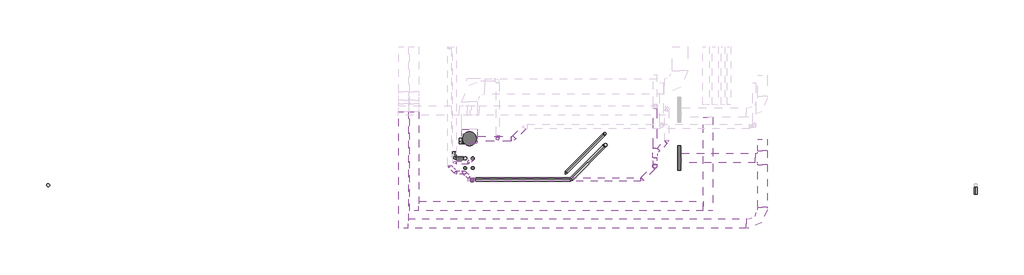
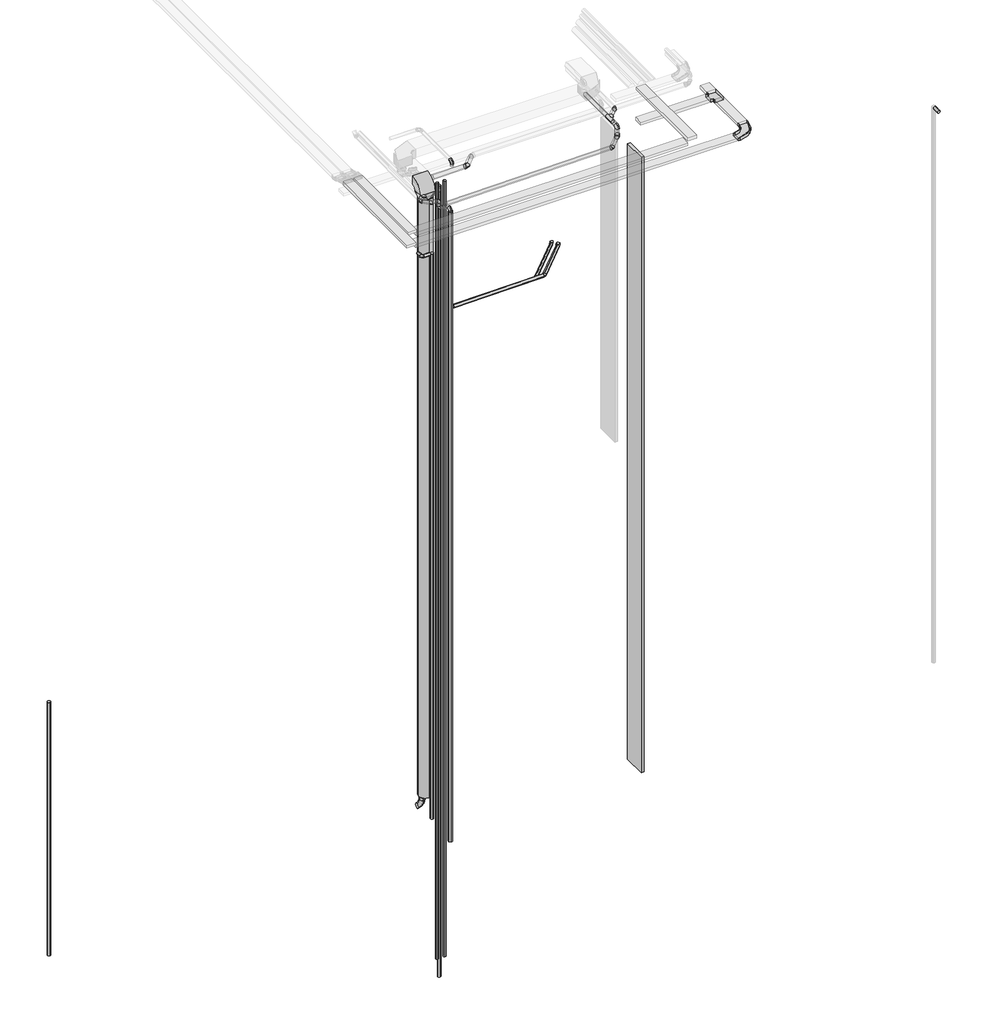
# One storey, part 1 of 5: 24 pipe segments, 18 pipe fittings, 9 cable carrier segments, 5 duct fittings, 5 duct segments, 2 cable carrier fittings.
"""IFC4 building model written with IfcOpenShell, lengths in millimetres."""

from ifc_helpers import new_model, si_unit, point, frame, frame_2d, origin, place, context, project, spatial, polyline, circle_curve, trimmed, segment, composite_curve, outline, extrude, transform, mapped, element, save
from components import el_radio_300_mm_312ed4b1, m_codo_horizontal_de_canal_el_5b0e7b07, duct_fitting_4f1c42b2, m_codo_rectangular_radio_ext_1_w_5d3c8198, m_codo_redondo_ext_1_d_74319309, m_codo_redondo_ext_1_d_96ea52f9, m_codo_redondo_ext_1_d_5003ae0d, pipe_fitting_8e92d537, pipe_fitting_b994c117, pipe_fitting_0b7fd5a4, pipe_fitting_aab77541, pipe_fitting_fa926298, pipe_fitting_9bc1c262, pipe_fitting_688cd524, pipe_fitting_d4e63a53, pipe_fitting_ab36f62d, pipe_fitting_87aeffad, pipe_fitting_4a6b8cfe

model = new_model("IFC4")

# Units and contexts
model_context = context("Model", 3, world=origin())
ifc_project = project(units=[si_unit("LENGTHUNIT", "METRE", prefix="MILLI")], contexts=[model_context])

# Site, building, storey
site = spatial("IfcSite", under=ifc_project)
building = spatial("IfcBuilding", under=site)
storey = spatial("IfcBuildingStorey", under=building, Name="Nivell 06 P06_PP", Elevation=29910.0)

# Cable carrier fittings
placement = place(None, origin())
el_radio_300_mm_shape = el_radio_300_mm_312ed4b1(model_context)
element("IfcCableCarrierFitting", 1, ObjectType="M_Te horizontal de canal : EL_Radio 300 mm", at=placement, inside=storey, context=model_context, shape_type="MappedRepresentation", body=[
    mapped(el_radio_300_mm_shape, transform((16614.6624278, -16993.7433657, 33074.0212739), x_axis=(0.0, -1.0, 0.0), y_axis=(1.0, 0.0, 0.0), z_axis=(0.0, 0.0, 1.0))),
])
m_codo_horizontal_de_canal_el_shape = m_codo_horizontal_de_canal_el_5b0e7b07(model_context)
element("IfcCableCarrierFitting", 2, ObjectType="M_Codo horizontal de canal : EL", at=placement, inside=storey, context=model_context, shape_type="MappedRepresentation", body=[
    mapped(m_codo_horizontal_de_canal_el_shape, transform((16614.6624278, -19116.2171768, 33074.0212739), x_axis=(1.0, 0.0, 0.0), y_axis=(0.0, 1.0, 0.0), z_axis=(0.0, 0.0, 1.0))),
])

# Cable carrier segments
element("IfcCableCarrierSegment", 3, ObjectType="EL", at=placement, inside=storey, context=model_context, shape_type="SweptSolid", body=[
    extrude(outline(polyline([(13974.6624278, -16593.7433657), (13974.6624278, -17393.7433657), (13874.6624278, -17393.7433657), (13874.6624278, -16593.7433657), (13974.6624278, -16593.7433657)])), frame((0.0, 0.0, 10030.0), z_axis=(0.0, 0.0, 1.0), x_axis=(1.0, 0.0, 0.0)), (0.0, 0.0, 1.0), 22048.2),
])
element("IfcCableCarrierSegment", 4, ObjectType="EL", at=placement, inside=storey, context=model_context, shape_type="SweptSolid", body=[
    extrude(outline(polyline([(16464.6624278, -17219.7433657), (16764.6624278, -17219.7433657), (16764.6624278, -18591.2171768), (16464.6624278, -18591.2171768), (16464.6624278, -17219.7433657)])), frame((0.0, 0.0, 33024.0212739), z_axis=(0.0, 0.0, 1.0), x_axis=(1.0, 0.0, 0.0)), (0.0, 0.0, 1.0), 100.0),
])
element("IfcCableCarrierSegment", 5, ObjectType="EL", at=placement, inside=storey, context=model_context, shape_type="SweptSolid", body=[
    extrude(outline(polyline([(16089.6624278, -18966.2171768), (16089.6624278, -19266.2171768), (5158.2381883, -19266.2171768), (5158.2381883, -18966.2171768), (16089.6624278, -18966.2171768)])), frame((0.0, 0.0, 33024.0212739), z_axis=(0.0, 0.0, 1.0), x_axis=(1.0, 0.0, 0.0)), (0.0, 0.0, 1.0), 100.0),
])
element("IfcCableCarrierSegment", 6, ObjectType="EL", at=placement, inside=storey, context=model_context, shape_type="SweptSolid", body=[
    extrude(outline(polyline([(16464.6624278, -16393.7433657), (16764.6624278, -16393.7433657), (16764.6624278, -16767.7433657), (16464.6624278, -16767.7433657), (16464.6624278, -16393.7433657)])), frame((0.0, 0.0, 33024.0212739), z_axis=(0.0, 0.0, 1.0), x_axis=(1.0, 0.0, 0.0)), (0.0, 0.0, 1.0), 100.0),
])
element("IfcCableCarrierSegment", 7, ObjectType="EL", at=placement, inside=storey, context=model_context, shape_type="SweptSolid", body=[
    extrude(outline(polyline([(16388.6624278, -16843.7433657), (16388.6624278, -17143.7433657), (14011.0671065, -17143.7433657), (14011.0671065, -16843.7433657), (16388.6624278, -16843.7433657)])), frame((0.0, 0.0, 33024.0212739), z_axis=(0.0, 0.0, 1.0), x_axis=(1.0, 0.0, 0.0)), (0.0, 0.0, 1.0), 100.0),
])
element("IfcCableCarrierSegment", 8, ObjectType="EL", at=placement, inside=storey, context=model_context, shape_type="SweptSolid", body=[
    extrude(outline(polyline([(14707.0671065, -15671.1304394), (15007.0671065, -15671.1304394), (15007.0671065, -18700.3999814), (14707.0671065, -18700.3999814), (14707.0671065, -15671.1304394)])), frame((0.0, 0.0, 33160.0), z_axis=(0.0, 0.0, 1.0), x_axis=(1.0, 0.0, 0.0)), (0.0, 0.0, 1.0), 100.0),
])
element("IfcCableCarrierSegment", 9, ObjectType="EL", at=placement, inside=storey, context=model_context, shape_type="SweptSolid", body=[
    extrude(outline(polyline([(14707.0671065, -18400.3999814), (14707.0671065, -18700.3999814), (5507.0671065, -18700.3999814), (5507.0671065, -18400.3999814), (14707.0671065, -18400.3999814)])), frame((0.0, 0.0, 32991.5185208), z_axis=(0.0, 0.0, 1.0), x_axis=(1.0, 0.0, 0.0)), (0.0, 0.0, 1.0), 100.0),
])
element("IfcCableCarrierSegment", 10, ObjectType="EL", at=placement, inside=storey, context=model_context, shape_type="SweptSolid", body=[
    extrude(outline(polyline([(4858.2381883, -15500.01931), (5158.2381883, -15500.01931), (5158.2381883, -19266.2171768), (4858.2381883, -19266.2171768), (4858.2381883, -15500.01931)])), frame((0.0, 0.0, 33110.0), z_axis=(0.0, 0.0, 1.0), x_axis=(1.0, 0.0, 0.0)), (0.0, 0.0, 1.0), 100.0),
])
element("IfcCableCarrierSegment", 11, ObjectType="EL", at=placement, inside=storey, context=model_context, shape_type="SweptSolid", body=[
    extrude(outline(polyline([(5207.0671065, -15500.01931), (5507.0671065, -15500.01931), (5507.0671065, -18700.3999814), (5207.0671065, -18700.3999814), (5207.0671065, -15500.01931)])), frame((0.0, 0.0, 33110.0), z_axis=(0.0, 0.0, 1.0), x_axis=(1.0, 0.0, 0.0)), (0.0, 0.0, 1.0), 100.0),
])

# Duct fittings
duct_fitting_shape = duct_fitting_4f1c42b2(model_context)
element("IfcDuctFitting", 12, ObjectType="M_Transición de rectangular a redondo - Ángulo : EXT_45 graus", at=placement, inside=storey, context=model_context, shape_type="MappedRepresentation", body=[
    mapped(duct_fitting_shape, transform((7139.9876148, -16372.3280883, 32610.0), x_axis=(0.0, 0.0, -1.0), y_axis=(1.0, 0.0, 0.0), z_axis=(0.0, -1.0, 0.0))),
])
m_codo_rectangular_radio_ext_1_w_shape = m_codo_rectangular_radio_ext_1_w_5d3c8198(model_context)
element("IfcDuctFitting", 13, ObjectType="M_Codo rectangular - Radio : EXT_1 W", at=placement, inside=storey, context=model_context, shape_type="MappedRepresentation", body=[
    mapped(m_codo_rectangular_radio_ext_1_w_shape, transform((7139.9876148, -16372.3280883, 32910.0), x_axis=(0.0, 0.0, 1.0), y_axis=(0.0, 1.0, 0.0), z_axis=(-1.0, 0.0, 0.0))),
])
m_codo_redondo_ext_1_d_shape = m_codo_redondo_ext_1_d_74319309(model_context)
element("IfcDuctFitting", 14, ObjectType="M_Codo redondo : EXT_1 D", at=placement, inside=storey, context=model_context, shape_type="MappedRepresentation", body=[
    mapped(m_codo_redondo_ext_1_d_shape, transform((6991.5415851, -16447.012168, 10742.5), x_axis=(0.0, 0.0, -1.0), y_axis=(-1.0, 0.0, 0.0), z_axis=(0.0, 1.0, 0.0))),
])
m_codo_redondo_ext_1_d_2_shape = m_codo_redondo_ext_1_d_96ea52f9(model_context)
element("IfcDuctFitting", 15, ObjectType="M_Codo redondo : EXT_1 D", at=placement, inside=storey, context=model_context, shape_type="MappedRepresentation", body=[
    mapped(m_codo_redondo_ext_1_d_2_shape, transform((8050.5896993, -16369.0292533, 33360.0), x_axis=(0.0, -1.0, 0.0), y_axis=(0.0, 0.0, 1.0), z_axis=(-1.0, 0.0, 0.0))),
])
m_codo_redondo_ext_1_d_3_shape = m_codo_redondo_ext_1_d_5003ae0d(model_context)
element("IfcDuctFitting", 16, ObjectType="M_Codo redondo : EXT_1 D", at=placement, inside=storey, context=model_context, shape_type="MappedRepresentation", body=[
    mapped(m_codo_redondo_ext_1_d_3_shape, transform((8550.5886625, -16372.972987, 33015.0), x_axis=(-0.7071067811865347, -0.7071067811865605, 0.0), y_axis=(0.7071067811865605, -0.7071067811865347, 0.0), z_axis=(0.0, 0.0, 1.0))),
])

# Duct segments
element("IfcDuctSegment", 17, ObjectType="EXT_Acer Galvanitzat - Rígid", at=placement, inside=storey, context=model_context, shape_type="SweptSolid", body=[
    extrude(outline(composite_curve([segment(trimmed(circle_curve(frame_2d((7139.9876148, -16372.3280883)), 225.0), [point((6914.9876148, -16372.3280883))], [point((7139.9876148, -16147.3280883))], False, "CARTESIAN"), True, "CONTINUOUS"), segment(trimmed(circle_curve(frame_2d((7139.9876148, -16372.3280883)), 225.0), [point((7139.9876148, -16147.3280883))], [point((7364.9876148, -16372.3280883))], False, "CARTESIAN"), True, "CONTINUOUS"), segment(trimmed(circle_curve(frame_2d((7139.9876148, -16372.3280883)), 225.0), [point((7364.9876148, -16372.3280883))], [point((7139.9876148, -16597.3280883))], False, "CARTESIAN"), True, "CONTINUOUS"), segment(trimmed(circle_curve(frame_2d((7139.9876148, -16372.3280883)), 225.0), [point((7139.9876148, -16597.3280883))], [point((6914.9876148, -16372.3280883))], False, "CARTESIAN"), True, "CONTINUOUS")], self_intersect=False)), frame((0.0, 0.0, 11010.0), z_axis=(0.0, 0.0, 1.0), x_axis=(1.0, 0.0, 0.0)), (0.0, 0.0, 1.0), 21418.9339828),
])
element("IfcDuctSegment", 18, ObjectType="EXT_Acer Galvanitzat - Rígid", at=placement, inside=storey, context=model_context, shape_type="SweptSolid", body=[
    extrude(outline(composite_curve([segment(trimmed(circle_curve(frame_2d((6991.5415851, -16447.012168)), 87.5), [point((7079.0415851, -16447.012168))], [point((6991.5415851, -16534.512168))], False, "CARTESIAN"), True, "CONTINUOUS"), segment(trimmed(circle_curve(frame_2d((6991.5415851, -16447.012168)), 87.5), [point((6991.5415851, -16534.512168))], [point((6904.0415851, -16447.012168))], False, "CARTESIAN"), True, "CONTINUOUS"), segment(trimmed(circle_curve(frame_2d((6991.5415851, -16447.012168)), 87.5), [point((6904.0415851, -16447.012168))], [point((6991.5415851, -16359.512168))], False, "CARTESIAN"), True, "CONTINUOUS"), segment(trimmed(circle_curve(frame_2d((6991.5415851, -16447.012168)), 87.5), [point((6991.5415851, -16359.512168))], [point((7079.0415851, -16447.012168))], False, "CARTESIAN"), True, "CONTINUOUS")], self_intersect=False)), frame((0.0, 0.0, 10917.5), z_axis=(0.0, 0.0, 1.0), x_axis=(1.0, 0.0, 0.0)), (0.0, 0.0, 1.0), 92.5),
])
element("IfcDuctSegment", 19, ObjectType="EXT_Acer Galvanitzat - Rígid", at=placement, inside=storey, context=model_context, shape_type="SweptSolid", body=[
    extrude(outline(composite_curve([segment(trimmed(circle_curve(frame_2d((8050.5896993, -16369.0292533)), 50.0), [point((8000.5896993, -16369.0292533))], [point((8050.5896993, -16319.0292533))], False, "CARTESIAN"), True, "CONTINUOUS"), segment(trimmed(circle_curve(frame_2d((8050.5896993, -16369.0292533)), 50.0), [point((8050.5896993, -16319.0292533))], [point((8100.5896993, -16369.0292533))], False, "CARTESIAN"), True, "CONTINUOUS"), segment(trimmed(circle_curve(frame_2d((8050.5896993, -16369.0292533)), 50.0), [point((8100.5896993, -16369.0292533))], [point((8050.5896993, -16419.0292533))], False, "CARTESIAN"), True, "CONTINUOUS"), segment(trimmed(circle_curve(frame_2d((8050.5896993, -16369.0292533)), 50.0), [point((8050.5896993, -16419.0292533))], [point((8000.5896993, -16369.0292533))], False, "CARTESIAN"), True, "CONTINUOUS")], self_intersect=False)), frame((0.0, 0.0, 33191.6), z_axis=(0.0, 0.0, 1.0), x_axis=(1.0, 0.0, 0.0)), (0.0, 0.0, 1.0), 68.4),
])
element("IfcDuctSegment", 20, ObjectType="EXT_Acer Galvanitzat - Rígid", at=placement, inside=storey, context=model_context, shape_type="SweptSolid", body=[
    extrude(outline(composite_curve([segment(trimmed(circle_curve(frame_2d((0.0, -75.0)), 75.0), [point((-75.0, -75.0))], [point((0.0, 0.0))], False, "CARTESIAN"), True, "CONTINUOUS"), segment(trimmed(circle_curve(frame_2d((0.0, -75.0)), 75.0), [point((0.0, 0.0))], [point((75.0, -75.0))], False, "CARTESIAN"), True, "CONTINUOUS"), segment(trimmed(circle_curve(frame_2d((0.0, -75.0)), 75.0), [point((75.0, -75.0))], [point((0.0, -150.0))], False, "CARTESIAN"), True, "CONTINUOUS"), segment(trimmed(circle_curve(frame_2d((0.0, -75.0)), 75.0), [point((0.0, -150.0))], [point((-75.0, -75.0))], False, "CARTESIAN"), True, "CONTINUOUS")], self_intersect=False)), frame((8594.5226453, -16329.0390042, 32940.0), z_axis=(0.7071067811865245, 0.7071067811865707, 0.0), x_axis=(0.7071067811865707, -0.7071067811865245, 0.0)), (0.0, 0.0, 1.0), 441.4228225),
])
element("IfcDuctSegment", 21, ObjectType="EXT_Acer Galvanitzat - Rígid", at=placement, inside=storey, context=model_context, shape_type="SweptSolid", body=[
    extrude(outline(composite_curve([segment(trimmed(circle_curve(frame_2d((-16372.972987, 33015.0)), 75.0), [point((-16297.972987, 33015.0))], [point((-16372.972987, 32940.0))], False, "CARTESIAN"), True, "CONTINUOUS"), segment(trimmed(circle_curve(frame_2d((-16372.972987, 33015.0)), 75.0), [point((-16372.972987, 32940.0))], [point((-16447.972987, 33015.0))], False, "CARTESIAN"), True, "CONTINUOUS"), segment(trimmed(circle_curve(frame_2d((-16372.972987, 33015.0)), 75.0), [point((-16447.972987, 33015.0))], [point((-16372.972987, 33090.0))], False, "CARTESIAN"), True, "CONTINUOUS"), segment(trimmed(circle_curve(frame_2d((-16372.972987, 33015.0)), 75.0), [point((-16372.972987, 33090.0))], [point((-16297.972987, 33015.0))], False, "CARTESIAN"), True, "CONTINUOUS")], self_intersect=False)), frame((7390.5886625, 0.0, 0.0), z_axis=(1.0, 0.0, 0.0), x_axis=(0.0, 1.0, 0.0)), (0.0, 0.0, 1.0), 1097.8679656),
])

# Pipe fittings
pipe_fitting_shape = pipe_fitting_8e92d537(model_context)
element("IfcPipeFitting", 22, ObjectType="M_Codo - Genérico : Estándar", at=placement, inside=storey, context=model_context, shape_type="MappedRepresentation", body=[
    mapped(pipe_fitting_shape, transform((13138.8500573, -17265.5495542, 33022.9404541), x_axis=(0.7070714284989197, 0.7070714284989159, 0.00999950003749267), y_axis=(-0.0070707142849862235, -0.007070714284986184, 0.9999500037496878), z_axis=(0.7071067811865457, -0.7071067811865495, 0.0))),
])
element("IfcPipeFitting", 23, ObjectType="M_Codo - Genérico : Estándar", at=placement, inside=storey, context=model_context, shape_type="MappedRepresentation", body=[
    mapped(pipe_fitting_shape, transform((13138.8606753, -17265.5345386, 33369.8150076), x_axis=(0.0, 0.0, 1.0), y_axis=(0.0, 1.0, 0.0), z_axis=(-1.0, 0.0, 0.0))),
])
pipe_fitting_2_shape = pipe_fitting_b994c117(model_context)
element("IfcPipeFitting", 24, ObjectType="M_Codo - Genérico : Estándar", at=placement, inside=storey, context=model_context, shape_type="MappedRepresentation", body=[
    mapped(pipe_fitting_2_shape, transform((12713.1047324, -17691.2948791, 33016.919506), x_axis=(0.9999500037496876, 0.0, 0.009999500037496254), y_axis=(-4.141685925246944e-05, 0.999991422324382, 0.004141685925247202), z_axis=(-0.00999941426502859, -0.004141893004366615, 0.9999414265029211))),
])
element("IfcPipeFitting", 25, ObjectType="M_Codo - Genérico : Estándar", at=placement, inside=storey, context=model_context, shape_type="MappedRepresentation", body=[
    mapped(pipe_fitting_2_shape, transform((13513.9151147, -16458.1589572, 33379.4427111), x_axis=(0.7070714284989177, 0.7070714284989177, 0.009999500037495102), y_axis=(-0.707130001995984, 0.7070714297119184, 0.004141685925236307), z_axis=(-0.004141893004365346, -0.009999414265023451, 0.9999414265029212))),
])
pipe_fitting_3_shape = pipe_fitting_0b7fd5a4(model_context)
element("IfcPipeFitting", 26, ObjectType="M_Codo - Genérico : Estándar", at=placement, inside=storey, context=model_context, shape_type="MappedRepresentation", body=[
    mapped(pipe_fitting_3_shape, transform((6489.9549591, -17250.8218912, 33000.9344714), x_axis=(0.0, -0.9999500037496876, -0.009999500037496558), y_axis=(0.9999914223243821, 4.141685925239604e-05, -0.0041416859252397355), z_axis=(0.004141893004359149, -0.009999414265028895, 0.9999414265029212))),
])
element("IfcPipeFitting", 27, ObjectType="M_Codo - Genérico : Estándar", at=placement, inside=storey, context=model_context, shape_type="MappedRepresentation", body=[
    mapped(pipe_fitting_3_shape, transform((6704.0962675, -17464.9631997, 32997.9060559), x_axis=(0.7070714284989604, -0.7070714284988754, -0.009999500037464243), y_axis=(0.7070714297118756, 0.7071300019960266, -0.004141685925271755), z_axis=(0.009999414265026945, -0.0041418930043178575, 0.9999414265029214))),
])
element("IfcPipeFitting", 28, ObjectType="M_Codo - Genérico : Estándar", at=placement, inside=storey, context=model_context, shape_type="MappedRepresentation", body=[
    mapped(pipe_fitting_3_shape, transform((10418.5757792, -17686.9795368, 29244.2175715), x_axis=(0.9999500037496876, 0.0, 0.009999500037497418), y_axis=(-4.141685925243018e-05, 0.9999914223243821, 0.004141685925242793), z_axis=(-0.009999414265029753, -0.004141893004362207, 0.9999414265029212))),
])
pipe_fitting_4_shape = pipe_fitting_aab77541(model_context)
element("IfcPipeFitting", 29, ObjectType="M_Codo - Genérico : Estándar", at=placement, inside=storey, context=model_context, shape_type="MappedRepresentation", body=[
    mapped(pipe_fitting_4_shape, transform((6973.1201475, -17464.9631997, 32995.2158171), x_axis=(0.9999500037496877, 0.0, -0.009999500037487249), y_axis=(-0.009999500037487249, 0.0, -0.9999500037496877), z_axis=(0.0, 1.0, 0.0))),
])
element("IfcPipeFitting", 30, ObjectType="M_Codo - Genérico : Estándar", at=placement, inside=storey, context=model_context, shape_type="MappedRepresentation", body=[
    mapped(pipe_fitting_4_shape, transform((11534.5619983, -16570.9933177, 29260.0), x_axis=(0.7070714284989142, 0.7070714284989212, 0.00999950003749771), y_axis=(-0.007070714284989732, -0.007070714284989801, 0.9999500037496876), z_axis=(0.707106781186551, -0.707106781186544, 0.0))),
])
element("IfcPipeFitting", 31, ObjectType="M_Codo - Genérico : Estándar", at=placement, inside=storey, context=model_context, shape_type="MappedRepresentation", body=[
    mapped(pipe_fitting_4_shape, transform((6973.1222182, -17465.2560338, 32763.7932298), x_axis=(0.0, 0.0, -1.0), y_axis=(0.7071241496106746, -0.7070894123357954, 0.0), z_axis=(-0.7070894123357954, -0.7071241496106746, 0.0))),
])
pipe_fitting_5_shape = pipe_fitting_fa926298(model_context)
element("IfcPipeFitting", 32, ObjectType="M_Codo - Genérico : Estándar", at=placement, inside=storey, context=model_context, shape_type="MappedRepresentation", body=[
    mapped(pipe_fitting_5_shape, transform((7223.1222182, -17707.378971, 32758.617712), x_axis=(0.0, -0.9999508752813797, -0.009911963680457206), y_axis=(0.0, 0.009911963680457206, -0.9999508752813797), z_axis=(1.0, 0.0, 0.0))),
])
pipe_fitting_6_shape = pipe_fitting_9bc1c262(model_context)
element("IfcPipeFitting", 33, ObjectType="M_Transición - Genérica : Estándar", at=placement, inside=storey, context=model_context, shape_type="MappedRepresentation", body=[
    mapped(pipe_fitting_6_shape, transform((7223.1222182, -17707.378971, 32696.3009849), x_axis=(0.0, 0.0, -1.0), y_axis=(-1.0, 0.0, 0.0), z_axis=(0.0, 1.0, 0.0))),
])
pipe_fitting_7_shape = pipe_fitting_688cd524(model_context)
element("IfcPipeFitting", 34, ObjectType="M_Codo - Genérico : Estándar", at=placement, inside=storey, context=model_context, shape_type="MappedRepresentation", body=[
    mapped(pipe_fitting_7_shape, transform((11520.8342792, -16208.2069022, 29119.1205236), x_axis=(0.7070714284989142, 0.7070714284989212, 0.00999950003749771), y_axis=(-0.007070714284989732, -0.007070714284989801, 0.9999500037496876), z_axis=(0.707106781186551, -0.707106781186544, 0.0))),
])
pipe_fitting_8_shape = pipe_fitting_d4e63a53(model_context)
element("IfcPipeFitting", 35, ObjectType="M_Codo - Genérico : Estándar", at=placement, inside=storey, context=model_context, shape_type="MappedRepresentation", body=[
    mapped(pipe_fitting_8_shape, transform((10258.5698208, -17470.4705374, 29101.2694142), x_axis=(0.9999500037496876, 0.0, 0.009999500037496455), y_axis=(-4.141528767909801e-05, 0.9999914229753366, 0.0041415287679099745), z_axis=(-0.00999941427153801, -0.004141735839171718, 0.9999414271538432))),
])
pipe_fitting_9_shape = pipe_fitting_ab36f62d(model_context)
element("IfcPipeFitting", 36, ObjectType="M_Te - Genérica : Estándar", at=placement, inside=storey, context=model_context, shape_type="MappedRepresentation", body=[
    mapped(pipe_fitting_9_shape, transform((13138.8606753, -16833.2133967, 33374.138219), x_axis=(0.0, 0.9999500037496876, 0.009999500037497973), y_axis=(-0.9999914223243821, 4.1416859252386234e-05, -0.004141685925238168), z_axis=(-0.004141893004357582, -0.009999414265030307, 0.9999414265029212))),
])
pipe_fitting_10_shape = pipe_fitting_87aeffad(model_context)
element("IfcPipeFitting", 37, ObjectType="M_Codo - Genérico : Estándar", at=placement, inside=storey, context=model_context, shape_type="MappedRepresentation", body=[
    mapped(pipe_fitting_10_shape, transform((6656.4795907, -17006.4845942, 30810.0), x_axis=(0.0, -1.0, 0.0), y_axis=(1.0, 0.0, 0.0), z_axis=(0.0, 0.0, 1.0))),
])
element("IfcPipeFitting", 38, ObjectType="M_Codo - Genérico : Estándar", at=placement, inside=storey, context=model_context, shape_type="MappedRepresentation", body=[
    mapped(pipe_fitting_10_shape, transform((6653.8941113, -17152.8731458, 33039.2), x_axis=(0.0, -1.0, 0.0), y_axis=(1.0, 0.0, 0.0), z_axis=(0.0, 0.0, 1.0))),
])
pipe_fitting_11_shape = pipe_fitting_4a6b8cfe(model_context)
element("IfcPipeFitting", 39, ObjectType="M_Codo - Genérico : Estándar", at=placement, inside=storey, context=model_context, shape_type="MappedRepresentation", body=[
    mapped(pipe_fitting_11_shape, transform((7103.8941113, -17152.8731458, 33039.2), x_axis=(1.0, 0.0, 0.0), y_axis=(0.0, 1.0, 0.0), z_axis=(0.0, 0.0, 1.0))),
])

# Pipe segments
element("IfcPipeSegment", 40, ObjectType="PVC_Baixant", at=placement, inside=storey, context=model_context, shape_type="SweptSolid", body=[
    extrude(outline(composite_curve([segment(trimmed(circle_curve(frame_2d((0.0, 62.5)), 62.5), [point((0.0, 0.0))], [point((-62.5, 62.5))], False, "CARTESIAN"), True, "CONTINUOUS"), segment(trimmed(circle_curve(frame_2d((0.0, 62.5)), 62.5), [point((-62.5, 62.5))], [point((0.0, 125.0))], False, "CARTESIAN"), True, "CONTINUOUS"), segment(trimmed(circle_curve(frame_2d((0.0, 62.5)), 62.5), [point((0.0, 125.0))], [point((62.5, 62.5))], False, "CARTESIAN"), True, "CONTINUOUS"), segment(trimmed(circle_curve(frame_2d((0.0, 62.5)), 62.5), [point((62.5, 62.5))], [point((0.0, 0.0))], False, "CARTESIAN"), True, "CONTINUOUS")], self_intersect=False)), frame((7104.9403942, -17753.7948791, 32960.8378626), z_axis=(0.9999500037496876, 0.0, 0.009999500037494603), x_axis=(0.009999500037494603, 0.0, -0.9999500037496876)), (0.0, 0.0, 1.0), 5578.8560913),
])
element("IfcPipeSegment", 41, ObjectType="PVC_Baixant", at=placement, inside=storey, context=model_context, shape_type="SweptSolid", body=[
    extrude(outline(composite_curve([segment(trimmed(circle_curve(frame_2d((0.0, -55.0)), 55.0), [point((-54.9972505, -55.549945))], [point((-0.5499451, -0.0027495))], False, "CARTESIAN"), True, "CONTINUOUS"), segment(trimmed(circle_curve(frame_2d((0.0, -55.0)), 55.0), [point((-0.5499451, -0.0027495))], [point((54.9972504, -54.450055))], False, "CARTESIAN"), True, "CONTINUOUS"), segment(trimmed(circle_curve(frame_2d((0.0, -55.0)), 55.0), [point((54.9972504, -54.450055))], [point((0.549945, -109.9972505))], False, "CARTESIAN"), True, "CONTINUOUS"), segment(trimmed(circle_curve(frame_2d((0.0, -55.0)), 55.0), [point((0.549945, -109.9972505))], [point((-54.9972505, -55.549945))], False, "CARTESIAN"), True, "CONTINUOUS")], self_intersect=False)), frame((6685.6643019, -17445.7534943, 32943.1722225), z_axis=(-0.7070714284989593, 0.7070714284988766, 0.009999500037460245), x_axis=(0.7071421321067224, 0.7070007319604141, 0.009998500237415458)), (0.0, 0.0, 1.0), 250.7206062),
])
element("IfcPipeSegment", 42, ObjectType="PVC_Baixant", at=placement, inside=storey, context=model_context, shape_type="SweptSolid", body=[
    extrude(outline(composite_curve([segment(trimmed(circle_curve(frame_2d((0.0, -55.0)), 55.0), [point((0.0, -110.0))], [point((-55.0, -55.0))], False, "CARTESIAN"), True, "CONTINUOUS"), segment(trimmed(circle_curve(frame_2d((0.0, -55.0)), 55.0), [point((-55.0, -55.0))], [point((0.0, 0.0))], False, "CARTESIAN"), True, "CONTINUOUS"), segment(trimmed(circle_curve(frame_2d((0.0, -55.0)), 55.0), [point((0.0, 0.0))], [point((55.0, -55.0))], False, "CARTESIAN"), True, "CONTINUOUS"), segment(trimmed(circle_curve(frame_2d((0.0, -55.0)), 55.0), [point((55.0, -55.0))], [point((0.0, -110.0))], False, "CARTESIAN"), True, "CONTINUOUS")], self_intersect=False)), frame((6910.811991, -17409.9631997, 32995.8388987), z_axis=(-0.9999500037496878, 0.0, 0.009999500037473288), x_axis=(0.009999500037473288, 0.0, 0.9999500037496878)), (0.0, 0.0, 1.0), 180.6580199),
])
element("IfcPipeSegment", 43, ObjectType="PVC_Baixant", at=placement, inside=storey, context=model_context, shape_type="SweptSolid", body=[
    extrude(outline(composite_curve([segment(trimmed(circle_curve(frame_2d((0.0, -55.0000001)), 55.0), [point((-54.9972502, -55.5499727))], [point((-0.5499727, -0.0027499))], False, "CARTESIAN"), True, "CONTINUOUS"), segment(trimmed(circle_curve(frame_2d((0.0, -55.0000001)), 55.0), [point((-0.5499727, -0.0027499))], [point((54.9972502, -54.4500274))], False, "CARTESIAN"), True, "CONTINUOUS"), segment(trimmed(circle_curve(frame_2d((0.0, -55.0000001)), 55.0), [point((54.9972502, -54.4500274))], [point((0.5499727, -109.9972502))], False, "CARTESIAN"), True, "CONTINUOUS"), segment(trimmed(circle_curve(frame_2d((0.0, -55.0000001)), 55.0), [point((0.5499727, -109.9972502))], [point((-54.9972502, -55.5499727))], False, "CARTESIAN"), True, "CONTINUOUS")], self_intersect=False)), frame((7127.8251031, -17619.1734295, 32706.6109547), z_axis=(-0.7070892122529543, 0.7070536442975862, 0.009999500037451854), x_axis=(0.70712434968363, 0.7070185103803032, 0.009999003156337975)), (0.0, 0.0, 1.0), 156.4771189),
])
element("IfcPipeSegment", 44, ObjectType="PVC_Baixant", at=placement, inside=storey, context=model_context, shape_type="SweptSolid", body=[
    extrude(outline(composite_curve([segment(trimmed(circle_curve(frame_2d((6973.1201475, -17464.9631997)), 55.0), [point((7028.1201475, -17464.9631997))], [point((6973.1201475, -17519.9631997))], False, "CARTESIAN"), True, "CONTINUOUS"), segment(trimmed(circle_curve(frame_2d((6973.1201475, -17464.9631997)), 55.0), [point((6973.1201475, -17519.9631997))], [point((6918.1201475, -17464.9631997))], False, "CARTESIAN"), True, "CONTINUOUS"), segment(trimmed(circle_curve(frame_2d((6973.1201475, -17464.9631997)), 55.0), [point((6918.1201475, -17464.9631997))], [point((6973.1201475, -17409.9631997))], False, "CARTESIAN"), True, "CONTINUOUS"), segment(trimmed(circle_curve(frame_2d((6973.1201475, -17464.9631997)), 55.0), [point((6973.1201475, -17409.9631997))], [point((7028.1201475, -17464.9631997))], False, "CARTESIAN"), True, "CONTINUOUS")], self_intersect=False)), frame((0.0, 0.0, 32826.1045016), z_axis=(0.0, 0.0, 1.0), x_axis=(1.0, 0.0, 0.0)), (0.0, 0.0, 1.0), 106.8000438),
])
element("IfcPipeSegment", 45, ObjectType="PVC_Baixant", at=placement, inside=storey, context=model_context, shape_type="SweptSolid", body=[
    extrude(outline(composite_curve([segment(trimmed(circle_curve(frame_2d((7223.1222182, -17707.378971)), 62.5), [point((7285.6222182, -17707.378971))], [point((7223.1222182, -17769.878971))], False, "CARTESIAN"), True, "CONTINUOUS"), segment(trimmed(circle_curve(frame_2d((7223.1222182, -17707.378971)), 62.5), [point((7223.1222182, -17769.878971))], [point((7160.6222182, -17707.378971))], False, "CARTESIAN"), True, "CONTINUOUS"), segment(trimmed(circle_curve(frame_2d((7223.1222182, -17707.378971)), 62.5), [point((7160.6222182, -17707.378971))], [point((7223.1222182, -17644.878971))], False, "CARTESIAN"), True, "CONTINUOUS"), segment(trimmed(circle_curve(frame_2d((7223.1222182, -17707.378971)), 62.5), [point((7223.1222182, -17644.878971))], [point((7285.6222182, -17707.378971))], False, "CARTESIAN"), True, "CONTINUOUS")], self_intersect=False)), frame((0.0, 0.0, 10108.5860696), z_axis=(0.0, 0.0, 1.0), x_axis=(1.0, 0.0, 0.0)), (0.0, 0.0, 1.0), 22555.1711653),
])
element("IfcPipeSegment", 46, ObjectType="PVC_Baixant", at=placement, inside=storey, context=model_context, shape_type="SweptSolid", body=[
    extrude(outline(composite_curve([segment(trimmed(circle_curve(frame_2d((0.0, -55.0)), 55.0), [point((-54.9972505, -54.450055))], [point((0.549945, -0.0027495))], False, "CARTESIAN"), True, "CONTINUOUS"), segment(trimmed(circle_curve(frame_2d((0.0, -55.0)), 55.0), [point((0.549945, -0.0027495))], [point((54.9972505, -55.549945))], False, "CARTESIAN"), True, "CONTINUOUS"), segment(trimmed(circle_curve(frame_2d((0.0, -55.0)), 55.0), [point((54.9972505, -55.549945))], [point((-0.549945, -109.9972505))], False, "CARTESIAN"), True, "CONTINUOUS"), segment(trimmed(circle_curve(frame_2d((0.0, -55.0)), 55.0), [point((-0.549945, -109.9972505))], [point((-54.9972505, -54.450055))], False, "CARTESIAN"), True, "CONTINUOUS")], self_intersect=False)), frame((10437.0077448, -17667.7698315, 29189.4837381), z_axis=(0.7070714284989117, 0.7070714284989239, 0.009999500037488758), x_axis=(0.70714213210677, -0.7070007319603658, -0.009998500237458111)), (0.0, 0.0, 1.0), 1489.9424458),
])
element("IfcPipeSegment", 47, ObjectType="PVC_Baixant", at=placement, inside=storey, context=model_context, shape_type="SweptSolid", body=[
    extrude(outline(composite_curve([segment(trimmed(circle_curve(frame_2d((0.0, -55.0)), 55.0), [point((0.0, 0.0))], [point((55.0, -55.0))], False, "CARTESIAN"), True, "CONTINUOUS"), segment(trimmed(circle_curve(frame_2d((0.0, -55.0)), 55.0), [point((55.0, -55.0))], [point((0.0, -110.0))], False, "CARTESIAN"), True, "CONTINUOUS"), segment(trimmed(circle_curve(frame_2d((0.0, -55.0)), 55.0), [point((0.0, -110.0))], [point((-55.0, -55.0))], False, "CARTESIAN"), True, "CONTINUOUS"), segment(trimmed(circle_curve(frame_2d((0.0, -55.0)), 55.0), [point((-55.0, -55.0))], [point((0.0, 0.0))], False, "CARTESIAN"), True, "CONTINUOUS")], self_intersect=False)), frame((7340.3329326, -17631.9795368, 29213.4351431), z_axis=(0.9999500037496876, 0.0, 0.009999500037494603), x_axis=(0.009999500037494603, 0.0, -0.9999500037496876)), (0.0, 0.0, 1.0), 3052.3287157),
])
element("IfcPipeSegment", 48, ObjectType="PVC_Baixant", at=placement, inside=storey, context=model_context, shape_type="SweptSolid", body=[
    extrude(outline(composite_curve([segment(trimmed(circle_curve(frame_2d((0.0, -45.0)), 45.0), [point((-44.9977504, -44.550045))], [point((0.449955, -0.0022496))], False, "CARTESIAN"), True, "CONTINUOUS"), segment(trimmed(circle_curve(frame_2d((0.0, -45.0)), 45.0), [point((0.449955, -0.0022496))], [point((44.9977503, -45.449955))], False, "CARTESIAN"), True, "CONTINUOUS"), segment(trimmed(circle_curve(frame_2d((0.0, -45.0)), 45.0), [point((44.9977503, -45.449955))], [point((-0.4499551, -89.9977503))], False, "CARTESIAN"), True, "CONTINUOUS"), segment(trimmed(circle_curve(frame_2d((0.0, -45.0)), 45.0), [point((-0.4499551, -89.9977503))], [point((-44.9977504, -44.550045))], False, "CARTESIAN"), True, "CONTINUOUS")], self_intersect=False)), frame((10273.911928, -17454.492921, 29056.4908779), z_axis=(0.7070714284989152, 0.7070714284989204, 0.009999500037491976), x_axis=(0.7071421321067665, -0.7070007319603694, -0.009998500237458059)), (0.0, 0.0, 1.0), 1711.6364246),
])
element("IfcPipeSegment", 49, ObjectType="AN_CI", at=placement, inside=storey, context=model_context, shape_type="SweptSolid", body=[
    extrude(outline(composite_curve([segment(trimmed(circle_curve(frame_2d((7004.6351694, -17006.4845942)), 50.8), [point((6953.8351694, -17006.4845942))], [point((7004.6351694, -16955.6845942))], False, "CARTESIAN"), True, "CONTINUOUS"), segment(trimmed(circle_curve(frame_2d((7004.6351694, -17006.4845942)), 50.8), [point((7004.6351694, -16955.6845942))], [point((7055.4351694, -17006.4845942))], False, "CARTESIAN"), True, "CONTINUOUS"), segment(trimmed(circle_curve(frame_2d((7004.6351694, -17006.4845942)), 50.8), [point((7055.4351694, -17006.4845942))], [point((7004.6351694, -17057.2845942))], False, "CARTESIAN"), True, "CONTINUOUS"), segment(trimmed(circle_curve(frame_2d((7004.6351694, -17006.4845942)), 50.8), [point((7004.6351694, -17057.2845942))], [point((6953.8351694, -17006.4845942))], False, "CARTESIAN"), True, "CONTINUOUS")], self_intersect=False)), frame((0.0, 0.0, 10571.5875), z_axis=(0.0, 0.0, 1.0), x_axis=(1.0, 0.0, 0.0)), (0.0, 0.0, 1.0), 20244.0218458),
])
element("IfcPipeSegment", 50, ObjectType="PP_FN", at=placement, inside=storey, context=model_context, shape_type="SweptSolid", body=[
    extrude(outline(composite_curve([segment(trimmed(circle_curve(frame_2d((7245.3970014, -17320.0612552)), 45.0), [point((7290.3970014, -17320.0612552))], [point((7245.3970014, -17365.0612552))], False, "CARTESIAN"), True, "CONTINUOUS"), segment(trimmed(circle_curve(frame_2d((7245.3970014, -17320.0612552)), 45.0), [point((7245.3970014, -17365.0612552))], [point((7200.3970014, -17320.0612552))], False, "CARTESIAN"), True, "CONTINUOUS"), segment(trimmed(circle_curve(frame_2d((7245.3970014, -17320.0612552)), 45.0), [point((7200.3970014, -17320.0612552))], [point((7245.3970014, -17275.0612552))], False, "CARTESIAN"), True, "CONTINUOUS"), segment(trimmed(circle_curve(frame_2d((7245.3970014, -17320.0612552)), 45.0), [point((7245.3970014, -17275.0612552))], [point((7290.3970014, -17320.0612552))], False, "CARTESIAN"), True, "CONTINUOUS")], self_intersect=False)), frame((0.0, 0.0, 5747.3875), z_axis=(0.0, 0.0, 1.0), x_axis=(1.0, 0.0, 0.0)), (0.0, 0.0, 1.0), 27775.317465),
])
element("IfcPipeSegment", 51, ObjectType="AN_CI", at=placement, inside=storey, context=model_context, shape_type="SweptSolid", body=[
    extrude(outline(composite_curve([segment(trimmed(circle_curve(frame_2d((7245.3154675, -17011.4517896)), 50.8), [point((7296.1154675, -17011.4517896))], [point((7245.3154675, -17062.2517896))], False, "CARTESIAN"), True, "CONTINUOUS"), segment(trimmed(circle_curve(frame_2d((7245.3154675, -17011.4517896)), 50.8), [point((7245.3154675, -17062.2517896))], [point((7194.5154675, -17011.4517896))], False, "CARTESIAN"), True, "CONTINUOUS"), segment(trimmed(circle_curve(frame_2d((7245.3154675, -17011.4517896)), 50.8), [point((7194.5154675, -17011.4517896))], [point((7245.3154675, -16960.6517896))], False, "CARTESIAN"), True, "CONTINUOUS"), segment(trimmed(circle_curve(frame_2d((7245.3154675, -17011.4517896)), 50.8), [point((7245.3154675, -16960.6517896))], [point((7296.1154675, -17011.4517896))], False, "CARTESIAN"), True, "CONTINUOUS")], self_intersect=False)), frame((0.0, 0.0, 4830.0), z_axis=(0.0, 0.0, 1.0), x_axis=(1.0, 0.0, 0.0)), (0.0, 0.0, 1.0), 28328.4125),
])
element("IfcPipeSegment", 52, ObjectType="PP_FN", at=placement, inside=storey, context=model_context, shape_type="SweptSolid", body=[
    extrude(outline(composite_curve([segment(trimmed(circle_curve(frame_2d((7000.3801213, -17320.5944101)), 45.0), [point((7045.3801213, -17320.5944101))], [point((7000.3801213, -17365.5944101))], False, "CARTESIAN"), True, "CONTINUOUS"), segment(trimmed(circle_curve(frame_2d((7000.3801213, -17320.5944101)), 45.0), [point((7000.3801213, -17365.5944101))], [point((6955.3801213, -17320.5944101))], False, "CARTESIAN"), True, "CONTINUOUS"), segment(trimmed(circle_curve(frame_2d((7000.3801213, -17320.5944101)), 45.0), [point((6955.3801213, -17320.5944101))], [point((7000.3801213, -17275.5944101))], False, "CARTESIAN"), True, "CONTINUOUS"), segment(trimmed(circle_curve(frame_2d((7000.3801213, -17320.5944101)), 45.0), [point((7000.3801213, -17275.5944101))], [point((7045.3801213, -17320.5944101))], False, "CARTESIAN"), True, "CONTINUOUS")], self_intersect=False)), frame((0.0, 0.0, 5739.8875), z_axis=(0.0, 0.0, 1.0), x_axis=(1.0, 0.0, 0.0)), (0.0, 0.0, 1.0), 27782.817465),
])
element("IfcPipeSegment", 53, ObjectType="AN_CI", at=placement, inside=storey, context=model_context, shape_type="SweptSolid", body=[
    extrude(outline(composite_curve([segment(trimmed(circle_curve(frame_2d((-6485.0356098, -17871.1262966)), 50.8), [point((-6434.2356098, -17871.1262966))], [point((-6485.0356098, -17921.9262966))], False, "CARTESIAN"), True, "CONTINUOUS"), segment(trimmed(circle_curve(frame_2d((-6485.0356098, -17871.1262966)), 50.8), [point((-6485.0356098, -17921.9262966))], [point((-6535.8356098, -17871.1262966))], False, "CARTESIAN"), True, "CONTINUOUS"), segment(trimmed(circle_curve(frame_2d((-6485.0356098, -17871.1262966)), 50.8), [point((-6535.8356098, -17871.1262966))], [point((-6485.0356098, -17820.3262966))], False, "CARTESIAN"), True, "CONTINUOUS"), segment(trimmed(circle_curve(frame_2d((-6485.0356098, -17871.1262966)), 50.8), [point((-6485.0356098, -17820.3262966))], [point((-6434.2356098, -17871.1262966))], False, "CARTESIAN"), True, "CONTINUOUS")], self_intersect=False)), frame((0.0, 0.0, 10915.6093458), z_axis=(0.0, 0.0, 1.0), x_axis=(1.0, 0.0, 0.0)), (0.0, 0.0, 1.0), 9076.98125),
])
element("IfcPipeSegment", 54, ObjectType="AN_CI", at=placement, inside=storey, context=model_context, shape_type="SweptSolid", body=[
    extrude(outline(composite_curve([segment(trimmed(circle_curve(frame_2d((-17006.4845942, 30810.0)), 50.8), [point((-16955.6845942, 30810.0))], [point((-17006.4845942, 30759.2))], False, "CARTESIAN"), True, "CONTINUOUS"), segment(trimmed(circle_curve(frame_2d((-17006.4845942, 30810.0)), 50.8), [point((-17006.4845942, 30759.2))], [point((-17057.2845942, 30810.0))], False, "CARTESIAN"), True, "CONTINUOUS"), segment(trimmed(circle_curve(frame_2d((-17006.4845942, 30810.0)), 50.8), [point((-17057.2845942, 30810.0))], [point((-17006.4845942, 30860.8))], False, "CARTESIAN"), True, "CONTINUOUS"), segment(trimmed(circle_curve(frame_2d((-17006.4845942, 30810.0)), 50.8), [point((-17006.4845942, 30860.8))], [point((-16955.6845942, 30810.0))], False, "CARTESIAN"), True, "CONTINUOUS")], self_intersect=False)), frame((6708.8670907, 0.0, 0.0), z_axis=(1.0, 0.0, 0.0), x_axis=(0.0, 1.0, 0.0)), (0.0, 0.0, 1.0), 227.6125),
])
element("IfcPipeSegment", 55, ObjectType="AN_CI", at=placement, inside=storey, context=model_context, shape_type="SweptSolid", body=[
    extrude(outline(composite_curve([segment(trimmed(circle_curve(frame_2d((30810.0, 6656.4795907)), 50.8), [point((30810.0, 6707.2795907))], [point((30860.8, 6656.4795907))], False, "CARTESIAN"), True, "CONTINUOUS"), segment(trimmed(circle_curve(frame_2d((30810.0, 6656.4795907)), 50.8), [point((30860.8, 6656.4795907))], [point((30810.0, 6605.6795907))], False, "CARTESIAN"), True, "CONTINUOUS"), segment(trimmed(circle_curve(frame_2d((30810.0, 6656.4795907)), 50.8), [point((30810.0, 6605.6795907))], [point((30759.2, 6656.4795907))], False, "CARTESIAN"), True, "CONTINUOUS"), segment(trimmed(circle_curve(frame_2d((30810.0, 6656.4795907)), 50.8), [point((30759.2, 6656.4795907))], [point((30810.0, 6707.2795907))], False, "CARTESIAN"), True, "CONTINUOUS")], self_intersect=False)), frame((0.0, -16954.0970942, 0.0), z_axis=(0.0, 1.0, 0.0), x_axis=(0.0, 0.0, 1.0)), (0.0, 0.0, 1.0), 167.6125),
])
element("IfcPipeSegment", 56, ObjectType="AN_CI", at=placement, inside=storey, context=model_context, shape_type="SweptSolid", body=[
    extrude(outline(composite_curve([segment(trimmed(circle_curve(frame_2d((0.0, -50.8)), 50.8), [point((-50.8, -50.8))], [point((0.0, 0.0))], False, "CARTESIAN"), True, "CONTINUOUS"), segment(trimmed(circle_curve(frame_2d((0.0, -50.8)), 50.8), [point((0.0, 0.0))], [point((50.8, -50.8))], False, "CARTESIAN"), True, "CONTINUOUS"), segment(trimmed(circle_curve(frame_2d((0.0, -50.8)), 50.8), [point((50.8, -50.8))], [point((0.0, -101.6))], False, "CARTESIAN"), True, "CONTINUOUS"), segment(trimmed(circle_curve(frame_2d((0.0, -50.8)), 50.8), [point((0.0, -101.6))], [point((-50.8, -50.8))], False, "CARTESIAN"), True, "CONTINUOUS")], self_intersect=False)), frame((7119.2380548, -17137.5292023, 32988.4), z_axis=(0.7071067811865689, 0.7071067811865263, 0.0), x_axis=(0.7071067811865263, -0.7071067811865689, 0.0)), (0.0, 0.0, 1.0), 125.912887),
])
element("IfcPipeSegment", 57, ObjectType="AN_CI", at=placement, inside=storey, context=model_context, shape_type="SweptSolid", body=[
    extrude(outline(composite_curve([segment(trimmed(circle_curve(frame_2d((-17152.8731458, 33039.2)), 50.8), [point((-17102.0731458, 33039.2))], [point((-17152.8731458, 32988.4))], False, "CARTESIAN"), True, "CONTINUOUS"), segment(trimmed(circle_curve(frame_2d((-17152.8731458, 33039.2)), 50.8), [point((-17152.8731458, 32988.4))], [point((-17203.6731458, 33039.2))], False, "CARTESIAN"), True, "CONTINUOUS"), segment(trimmed(circle_curve(frame_2d((-17152.8731458, 33039.2)), 50.8), [point((-17203.6731458, 33039.2))], [point((-17152.8731458, 33090.0))], False, "CARTESIAN"), True, "CONTINUOUS"), segment(trimmed(circle_curve(frame_2d((-17152.8731458, 33039.2)), 50.8), [point((-17152.8731458, 33090.0))], [point((-17102.0731458, 33039.2))], False, "CARTESIAN"), True, "CONTINUOUS")], self_intersect=False)), frame((6706.2816113, 0.0, 0.0), z_axis=(1.0, 0.0, 0.0), x_axis=(0.0, 1.0, 0.0)), (0.0, 0.0, 1.0), 375.912887),
])
element("IfcPipeSegment", 58, ObjectType="AN_CI", at=placement, inside=storey, context=model_context, shape_type="SweptSolid", body=[
    extrude(outline(composite_curve([segment(trimmed(circle_curve(frame_2d((0.0, -50.8)), 50.8), [point((0.0, 0.0))], [point((50.8, -50.8))], False, "CARTESIAN"), True, "CONTINUOUS"), segment(trimmed(circle_curve(frame_2d((0.0, -50.8)), 50.8), [point((50.8, -50.8))], [point((0.0, -101.5999999))], False, "CARTESIAN"), True, "CONTINUOUS"), segment(trimmed(circle_curve(frame_2d((0.0, -50.8)), 50.8), [point((0.0, -101.5999999))], [point((-50.8, -50.8))], False, "CARTESIAN"), True, "CONTINUOUS"), segment(trimmed(circle_curve(frame_2d((0.0, -50.8)), 50.8), [point((-50.8, -50.8))], [point((0.0, 0.0))], False, "CARTESIAN"), True, "CONTINUOUS")], self_intersect=False)), frame((23464.1145716, -18170.3435948, 30810.0), z_axis=(2.0856058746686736e-05, 0.9999999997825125, 0.0), x_axis=(0.0, 0.0, -1.0)), (0.0, 0.0, 1.0), 227.6125),
])
element("IfcPipeSegment", 59, ObjectType="PVC_Baixant", at=placement, inside=storey, context=model_context, shape_type="SweptSolid", body=[
    extrude(outline(composite_curve([segment(trimmed(circle_curve(frame_2d((0.0, 62.5)), 62.5), [point((62.4968755, 61.8750625))], [point((-0.6249375, 0.0031245))], False, "CARTESIAN"), True, "CONTINUOUS"), segment(trimmed(circle_curve(frame_2d((0.0, 62.5)), 62.5), [point((-0.6249375, 0.0031245))], [point((-62.4968756, 63.1249375))], False, "CARTESIAN"), True, "CONTINUOUS"), segment(trimmed(circle_curve(frame_2d((0.0, 62.5)), 62.5), [point((-62.4968756, 63.1249375))], [point((0.6249375, 124.9968756))], False, "CARTESIAN"), True, "CONTINUOUS"), segment(trimmed(circle_curve(frame_2d((0.0, 62.5)), 62.5), [point((0.6249375, 124.9968756))], [point((62.4968755, 61.8750625))], False, "CARTESIAN"), True, "CONTINUOUS")], self_intersect=False)), frame((12734.0260201, -17671.2573865, 33079.7091286), z_axis=(0.7070714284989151, 0.7070714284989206, 0.009999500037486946), x_axis=(0.7071421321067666, -0.7070007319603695, -0.00999850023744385)), (0.0, 0.0, 1.0), 501.8095717),
])
element("IfcPipeSegment", 60, ObjectType="PVC_Baixant", at=placement, inside=storey, context=model_context, shape_type="SweptSolid", body=[
    extrude(outline(composite_curve([segment(trimmed(circle_curve(frame_2d((0.0, 62.5)), 62.5), [point((-62.5, 62.4999997))], [point((-2e-07, 125.0))], False, "CARTESIAN"), True, "CONTINUOUS"), segment(trimmed(circle_curve(frame_2d((0.0, 62.5)), 62.5), [point((-2e-07, 125.0))], [point((62.5, 62.5000002))], False, "CARTESIAN"), True, "CONTINUOUS"), segment(trimmed(circle_curve(frame_2d((0.0, 62.5)), 62.5), [point((62.5, 62.5000002))], [point((2e-07, 0.0))], False, "CARTESIAN"), True, "CONTINUOUS"), segment(trimmed(circle_curve(frame_2d((0.0, 62.5)), 62.5), [point((2e-07, 0.0))], [point((-62.5, 62.4999997))], False, "CARTESIAN"), True, "CONTINUOUS")], self_intersect=False)), frame((13138.8500573, -17328.049554, 33093.6717194), z_axis=(5.168866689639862e-05, 7.309667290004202e-05, 0.9999999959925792), x_axis=(0.999999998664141, -3.7782683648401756e-09, -5.168866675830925e-05)), (0.0, 0.0, 1.0), 205.4211607),
])
element("IfcPipeSegment", 61, ObjectType="PVC_Baixant", at=placement, inside=storey, context=model_context, shape_type="SweptSolid", body=[
    extrude(outline(composite_curve([segment(trimmed(circle_curve(frame_2d((0.0, -62.5000001)), 62.5), [point((-62.5, -62.5000001))], [point((0.0, 0.0))], False, "CARTESIAN"), True, "CONTINUOUS"), segment(trimmed(circle_curve(frame_2d((0.0, -62.5000001)), 62.5), [point((0.0, 0.0))], [point((62.5, -62.5000001))], False, "CARTESIAN"), True, "CONTINUOUS"), segment(trimmed(circle_curve(frame_2d((0.0, -62.5000001)), 62.5), [point((62.5, -62.5000001))], [point((0.0, -125.0))], False, "CARTESIAN"), True, "CONTINUOUS"), segment(trimmed(circle_curve(frame_2d((0.0, -62.5000001)), 62.5), [point((0.0, -125.0))], [point((-62.5, -62.5000001))], False, "CARTESIAN"), True, "CONTINUOUS")], self_intersect=False)), frame((13138.8606753, -17194.1864091, 33308.0253639), z_axis=(0.0, 0.9999500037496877, 0.009999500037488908), x_axis=(1.0, 0.0, 0.0)), (0.0, 0.0, 1.0), 204.4717309),
])
element("IfcPipeSegment", 62, ObjectType="PVC_Baixant", at=placement, inside=storey, context=model_context, shape_type="SweptSolid", body=[
    extrude(outline(composite_curve([segment(trimmed(circle_curve(frame_2d((0.0, -62.5)), 62.5), [point((-62.4968748, -61.8749859))], [point((0.6250142, -0.0031252))], False, "CARTESIAN"), True, "CONTINUOUS"), segment(trimmed(circle_curve(frame_2d((0.0, -62.5)), 62.5), [point((0.6250142, -0.0031252))], [point((62.4968748, -63.1250141))], False, "CARTESIAN"), True, "CONTINUOUS"), segment(trimmed(circle_curve(frame_2d((0.0, -62.5)), 62.5), [point((62.4968748, -63.1250141))], [point((-0.6250141, -124.9968748))], False, "CARTESIAN"), True, "CONTINUOUS"), segment(trimmed(circle_curve(frame_2d((0.0, -62.5)), 62.5), [point((-0.6250141, -124.9968748))], [point((-62.4968748, -61.8749859))], False, "CARTESIAN"), True, "CONTINUOUS")], self_intersect=False)), frame((13249.972941, -16721.2172275, 33313.2158343), z_axis=(0.7070714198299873, 0.7070714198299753, 0.010000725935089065), x_axis=(0.7071421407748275, -0.7070007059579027, -0.009999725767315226)), (0.0, 0.0, 1.0), 343.7006209),
])
element("IfcPipeSegment", 63, ObjectType="PVC_Baixant", at=placement, inside=storey, context=model_context, shape_type="SweptSolid", body=[
    extrude(outline(composite_curve([segment(trimmed(circle_curve(frame_2d((0.0, -62.5)), 62.5), [point((-62.5, -62.5))], [point((0.0, 0.0))], False, "CARTESIAN"), True, "CONTINUOUS"), segment(trimmed(circle_curve(frame_2d((0.0, -62.5)), 62.5), [point((0.0, 0.0))], [point((62.5, -62.5))], False, "CARTESIAN"), True, "CONTINUOUS"), segment(trimmed(circle_curve(frame_2d((0.0, -62.5)), 62.5), [point((62.5, -62.5))], [point((0.0, -125.0))], False, "CARTESIAN"), True, "CONTINUOUS"), segment(trimmed(circle_curve(frame_2d((0.0, -62.5)), 62.5), [point((0.0, -125.0))], [point((-62.5, -62.5))], False, "CARTESIAN"), True, "CONTINUOUS")], self_intersect=False)), frame((13138.8606753, -16675.4519548, 33313.2127085), z_axis=(0.0, 0.9999500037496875, 0.00999950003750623), x_axis=(1.0, 0.0, 0.0)), (0.0, 0.0, 1.0), 1282.7421811),
])

save(model, "model.ifc")
